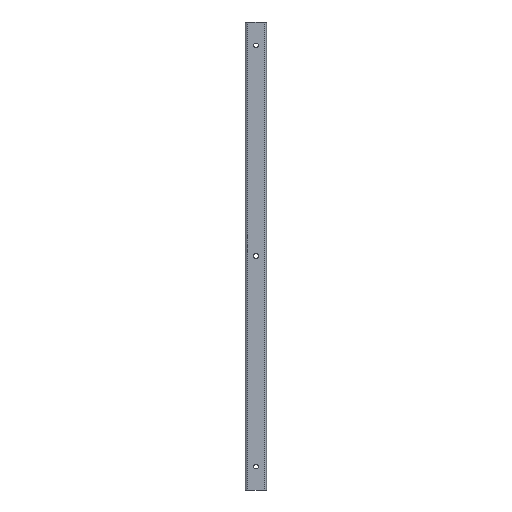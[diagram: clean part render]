
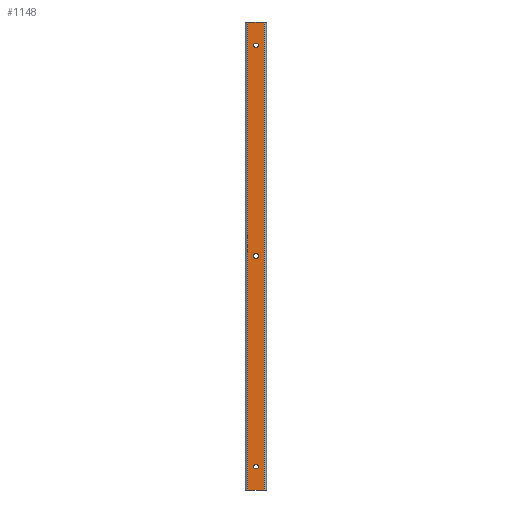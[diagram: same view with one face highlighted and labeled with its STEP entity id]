
A CAD part, front view. The second image highlights one B-rep face of the part: STEP entity #1148.
In plain terms, the highlighted planar face has unit normal (0, -1, 0).
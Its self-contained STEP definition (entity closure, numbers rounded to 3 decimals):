
#4 = AXIS2_PLACEMENT_3D ( 'NONE', #904, #902, #968 ) ;
#8 = AXIS2_PLACEMENT_3D ( 'NONE', #923, #911, #910 ) ;
#10 = AXIS2_PLACEMENT_3D ( 'NONE', #889, #898, #882 ) ;
#68 = EDGE_LOOP ( 'NONE', ( #1225, #1224 ) ) ;
#74 = EDGE_LOOP ( 'NONE', ( #1227, #1226 ) ) ;
#75 = EDGE_LOOP ( 'NONE', ( #1234, #1233 ) ) ;
#78 = EDGE_LOOP ( 'NONE', ( #1223, #1222, #1221, #1235 ) ) ;
#87 = VERTEX_POINT ( 'NONE', #1059 ) ;
#93 = VERTEX_POINT ( 'NONE', #1055 ) ;
#96 = VERTEX_POINT ( 'NONE', #1061 ) ;
#97 = VERTEX_POINT ( 'NONE', #1025 ) ;
#103 = VERTEX_POINT ( 'NONE', #1041 ) ;
#107 = VERTEX_POINT ( 'NONE', #1102 ) ;
#108 = VERTEX_POINT ( 'NONE', #1100 ) ;
#119 = VERTEX_POINT ( 'NONE', #1074 ) ;
#130 = VERTEX_POINT ( 'NONE', #1040 ) ;
#138 = VERTEX_POINT ( 'NONE', #1030 ) ;
#187 = CIRCLE ( 'NONE', #311, 3. ) ;
#188 = CIRCLE ( 'NONE', #313, 3. ) ;
#194 = CIRCLE ( 'NONE', #243, 3. ) ;
#243 = AXIS2_PLACEMENT_3D ( 'NONE', #883, #880, #879 ) ;
#262 = EDGE_CURVE ( 'NONE', #130, #119, #487, .T. ) ;
#265 = EDGE_CURVE ( 'NONE', #108, #107, #488, .T. ) ;
#266 = EDGE_CURVE ( 'NONE', #103, #93, #507, .T. ) ;
#267 = EDGE_CURVE ( 'NONE', #119, #87, #504, .T. ) ;
#268 = EDGE_CURVE ( 'NONE', #130, #138, #514, .T. ) ;
#269 = EDGE_CURVE ( 'NONE', #138, #87, #512, .T. ) ;
#270 = EDGE_CURVE ( 'NONE', #96, #97, #510, .T. ) ;
#311 = AXIS2_PLACEMENT_3D ( 'NONE', #897, #894, #892 ) ;
#313 = AXIS2_PLACEMENT_3D ( 'NONE', #924, #922, #921 ) ;
#394 = EDGE_CURVE ( 'NONE', #107, #108, #188, .T. ) ;
#401 = EDGE_CURVE ( 'NONE', #97, #96, #187, .T. ) ;
#404 = EDGE_CURVE ( 'NONE', #93, #103, #194, .T. ) ;
#434 = AXIS2_PLACEMENT_3D ( 'NONE', #672, #671, #670 ) ;
#487 = LINE ( 'NONE', #951, #508 ) ;
#488 = CIRCLE ( 'NONE', #8, 3. ) ;
#504 = LINE ( 'NONE', #905, #513 ) ;
#507 = CIRCLE ( 'NONE', #4, 3. ) ;
#508 = VECTOR ( 'NONE', #947, 1000. ) ;
#509 = VECTOR ( 'NONE', #890, 1000. ) ;
#510 = CIRCLE ( 'NONE', #10, 3. ) ;
#511 = VECTOR ( 'NONE', #893, 1000. ) ;
#512 = LINE ( 'NONE', #900, #509 ) ;
#513 = VECTOR ( 'NONE', #943, 1000. ) ;
#514 = LINE ( 'NONE', #901, #511 ) ;
#535 = FACE_BOUND ( 'NONE', #68, .T. ) ;
#536 = FACE_BOUND ( 'NONE', #75, .T. ) ;
#538 = FACE_OUTER_BOUND ( 'NONE', #78, .T. ) ;
#539 = FACE_BOUND ( 'NONE', #74, .T. ) ;
#670 = DIRECTION ( 'NONE',  ( 0., 0., 1. ) ) ;
#671 = DIRECTION ( 'NONE',  ( 0., 1., 0. ) ) ;
#672 = CARTESIAN_POINT ( 'NONE',  ( 3., 0., 600. ) ) ;
#681 = PLANE ( 'NONE',  #434 ) ;
#879 = DIRECTION ( 'NONE',  ( 0., 0., 1. ) ) ;
#880 = DIRECTION ( 'NONE',  ( 0., 1., 0. ) ) ;
#882 = DIRECTION ( 'NONE',  ( 0., 0., 1. ) ) ;
#883 = CARTESIAN_POINT ( 'NONE',  ( 13.5, 0., 300. ) ) ;
#889 = CARTESIAN_POINT ( 'NONE',  ( 13.5, 0., 30. ) ) ;
#890 = DIRECTION ( 'NONE',  ( 0., 0., -1. ) ) ;
#892 = DIRECTION ( 'NONE',  ( 0., 0., 1. ) ) ;
#893 = DIRECTION ( 'NONE',  ( 1., 0., 0. ) ) ;
#894 = DIRECTION ( 'NONE',  ( 0., 1., 0. ) ) ;
#897 = CARTESIAN_POINT ( 'NONE',  ( 13.5, 0., 30. ) ) ;
#898 = DIRECTION ( 'NONE',  ( 0., 1., 0. ) ) ;
#900 = CARTESIAN_POINT ( 'NONE',  ( 24., 0., 600. ) ) ;
#901 = CARTESIAN_POINT ( 'NONE',  ( 3., 0., 600. ) ) ;
#902 = DIRECTION ( 'NONE',  ( 0., 1., 0. ) ) ;
#904 = CARTESIAN_POINT ( 'NONE',  ( 13.5, 0., 300. ) ) ;
#905 = CARTESIAN_POINT ( 'NONE',  ( 3., 0., 0. ) ) ;
#910 = DIRECTION ( 'NONE',  ( 0., 0., 1. ) ) ;
#911 = DIRECTION ( 'NONE',  ( 0., 1., 0. ) ) ;
#921 = DIRECTION ( 'NONE',  ( 0., 0., 1. ) ) ;
#922 = DIRECTION ( 'NONE',  ( 0., 1., 0. ) ) ;
#923 = CARTESIAN_POINT ( 'NONE',  ( 13.5, 0., 570. ) ) ;
#924 = CARTESIAN_POINT ( 'NONE',  ( 13.5, 0., 570. ) ) ;
#943 = DIRECTION ( 'NONE',  ( 1., 0., 0. ) ) ;
#947 = DIRECTION ( 'NONE',  ( 0., 0., -1. ) ) ;
#951 = CARTESIAN_POINT ( 'NONE',  ( 3., 0., 600. ) ) ;
#968 = DIRECTION ( 'NONE',  ( 0., 0., 1. ) ) ;
#1025 = CARTESIAN_POINT ( 'NONE',  ( 16.5, 0., 30. ) ) ;
#1030 = CARTESIAN_POINT ( 'NONE',  ( 24., 0., 600. ) ) ;
#1040 = CARTESIAN_POINT ( 'NONE',  ( 3., 0., 600. ) ) ;
#1041 = CARTESIAN_POINT ( 'NONE',  ( 10.5, 0., 300. ) ) ;
#1055 = CARTESIAN_POINT ( 'NONE',  ( 16.5, 0., 300. ) ) ;
#1059 = CARTESIAN_POINT ( 'NONE',  ( 24., 0., 0. ) ) ;
#1061 = CARTESIAN_POINT ( 'NONE',  ( 10.5, 0., 30. ) ) ;
#1074 = CARTESIAN_POINT ( 'NONE',  ( 3., 0., 0. ) ) ;
#1100 = CARTESIAN_POINT ( 'NONE',  ( 10.5, 0., 570. ) ) ;
#1102 = CARTESIAN_POINT ( 'NONE',  ( 16.5, 0., 570. ) ) ;
#1148 = ADVANCED_FACE ( 'NONE', ( #539, #535, #538, #536 ), #681, .F. ) ;
#1221 = ORIENTED_EDGE ( 'NONE', *, *, #268, .F. ) ;
#1222 = ORIENTED_EDGE ( 'NONE', *, *, #269, .F. ) ;
#1223 = ORIENTED_EDGE ( 'NONE', *, *, #267, .T. ) ;
#1224 = ORIENTED_EDGE ( 'NONE', *, *, #394, .T. ) ;
#1225 = ORIENTED_EDGE ( 'NONE', *, *, #265, .T. ) ;
#1226 = ORIENTED_EDGE ( 'NONE', *, *, #404, .T. ) ;
#1227 = ORIENTED_EDGE ( 'NONE', *, *, #266, .T. ) ;
#1233 = ORIENTED_EDGE ( 'NONE', *, *, #401, .T. ) ;
#1234 = ORIENTED_EDGE ( 'NONE', *, *, #270, .T. ) ;
#1235 = ORIENTED_EDGE ( 'NONE', *, *, #262, .T. ) ;
